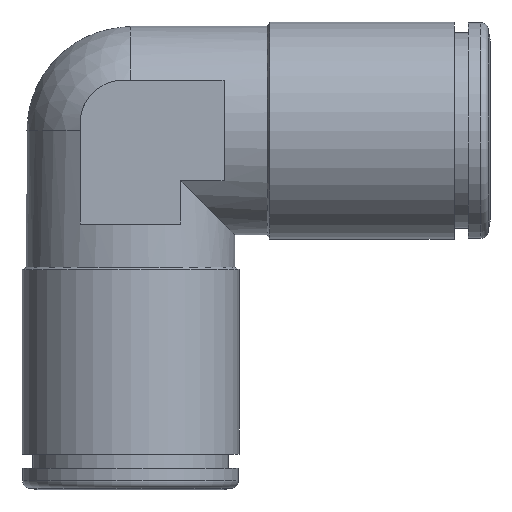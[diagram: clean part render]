
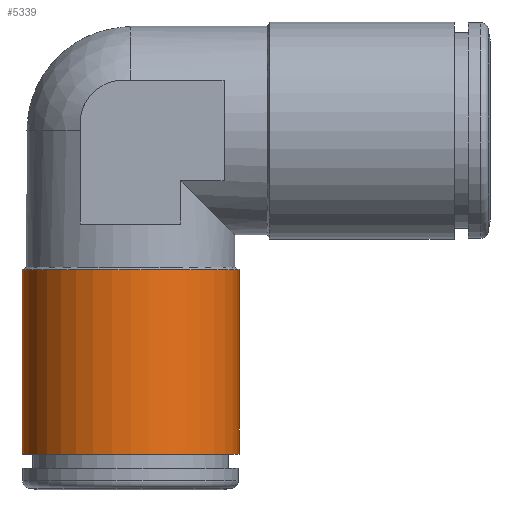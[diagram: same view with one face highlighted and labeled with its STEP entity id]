
A CAD part, front view. The second image highlights one B-rep face of the part: STEP entity #5339.
In plain terms, the highlighted cylindrical face has radius 7.55 mm (diameter 15.1 mm), a full revolution.
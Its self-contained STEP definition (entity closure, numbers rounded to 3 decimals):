
#1520=ORIENTED_EDGE('',*,*,#1906,.T.);
#1521=ORIENTED_EDGE('',*,*,#1907,.F.);
#1741=CIRCLE('',#5169,7.55);
#1742=CIRCLE('',#5171,7.55);
#1814=VERTEX_POINT('',#2724);
#1815=VERTEX_POINT('',#2727);
#1906=EDGE_CURVE('',#1814,#1814,#1741,.T.);
#1907=EDGE_CURVE('',#1815,#1815,#1742,.T.);
#2028=EDGE_LOOP('',(#1520));
#2029=EDGE_LOOP('',(#1521));
#2155=FACE_BOUND('',#2028,.T.);
#2156=FACE_BOUND('',#2029,.T.);
#2308=DIRECTION('',(0.,1.,0.));
#2309=DIRECTION('',(7.55,0.,0.));
#2310=DIRECTION('',(0.,1.,0.));
#2311=DIRECTION('',(1.,0.,0.));
#2312=DIRECTION('',(0.,1.,0.));
#2313=DIRECTION('',(7.55,0.,0.));
#2724=CARTESIAN_POINT('',(28.219,13.742,0.));
#2725=CARTESIAN_POINT('',(20.669,13.742,0.));
#2726=CARTESIAN_POINT('',(20.669,13.742,0.));
#2727=CARTESIAN_POINT('',(28.219,26.569,0.));
#2728=CARTESIAN_POINT('',(20.669,26.569,0.));
#5169=AXIS2_PLACEMENT_3D('',#2725,#2308,#2309);
#5170=AXIS2_PLACEMENT_3D('',#2726,#2310,#2311);
#5171=AXIS2_PLACEMENT_3D('',#2728,#2312,#2313);
#5307=CYLINDRICAL_SURFACE('',#5170,7.55);
#5339=ADVANCED_FACE('',(#2155,#2156),#5307,.T.);
